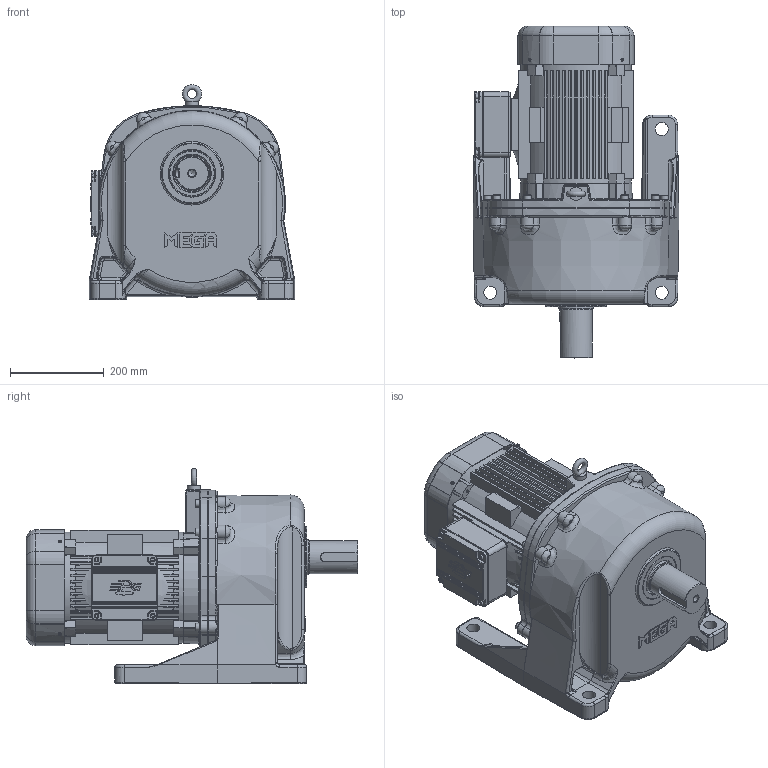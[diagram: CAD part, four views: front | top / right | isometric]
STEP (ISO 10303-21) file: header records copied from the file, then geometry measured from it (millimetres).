
FILE_DESCRIPTION(/* description */ (''),/* implementation_level */ '2;1');
FILE_NAME(/* name */ 'Z:\동력 3D 파일\PML270_5.5kW_3D.stp',/* time_stamp */ '2021-11-30T16:31:28+09:00',/* author */ ('jaebok'),/* organization */ (''),/* preprocessor_version */ 'ST-DEVELOPER v18.1',/* originating_system */ 'Autodesk Inventor 2022',/* authorisation */ '');
FILE_SCHEMA (('AUTOMOTIVE_DESIGN { 1 0 10303 214 3 1 1 }'));
Length unit declared in the file: millimetre
Products named in the file (1): 부품25
Bounding box: 440 x 710 x 459.99 mm (x, y, z)
Volume: 17152472.5 mm3; surface area: 2761366.3 mm2
Topology: 12 solids, 22 shells, 4293 faces, 10781 edges, 6612 vertices
Faces by surface type: plane 1376, bspline 1251, cylinder 919, torus 376, cone 243, sphere 128
Full cylindrical faces by diameter (mm): 4.134 x4, 4.917 x9, 5 x16, 6 x9, 6.5 x8, 6.647 x9, 7 x4, 8 x4, 9.5 x4, 10 x21, 12 x9, 13.2 x1, 13.835 x9, 15 x1, 16 x9, 17 x8, 20 x1, 28 x5, 32 x1, 34 x2, 50 x1, 55 x1, 60 x2, 62 x1, 70 x1, 72 x1, 75 x3, 80 x2, 81 x1, 89.5 x1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
Entity records: 160665 total; most frequent: CARTESIAN_POINT 61313, ORIENTED_EDGE 21258, DIRECTION 17480, EDGE_CURVE 10629, VERTEX_POINT 6613, AXIS2_PLACEMENT_3D 6581, EDGE_LOOP 4640, LINE 4318
